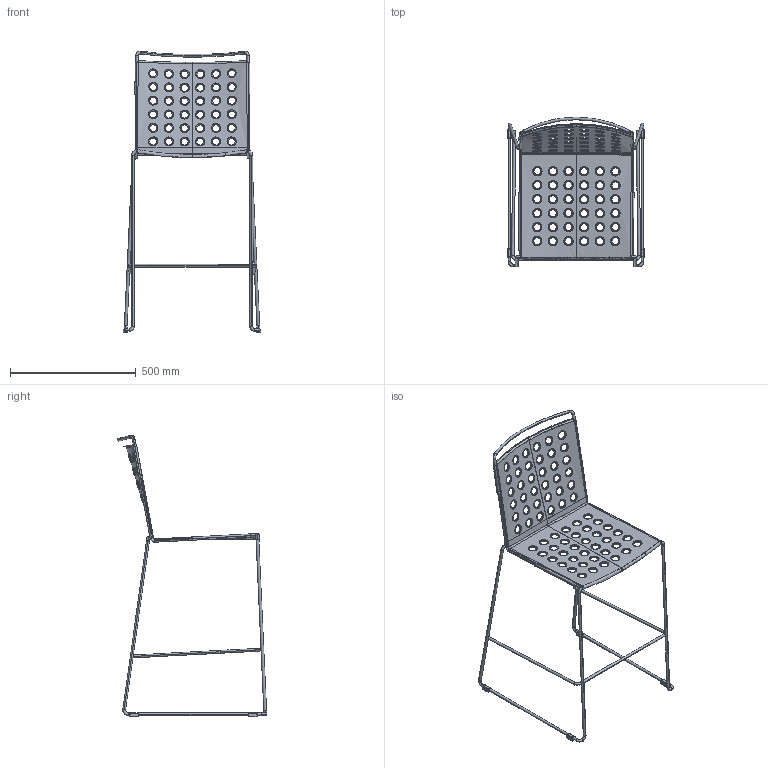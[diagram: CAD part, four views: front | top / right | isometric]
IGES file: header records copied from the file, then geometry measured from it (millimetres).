
Start section: 3D InterOp IGES (v. 2017 1.0.2), Spatial Corp. Copyright (c) 1999-2016.
Global section: file name: Sgabello Alto Busy.igs; native system: Spatial Corp.; preprocessor: 3D InterOp GENERIC/IGES 3.0; author: Noname; organization: Noname; date: 20180712.162311; units: millimetre
Bounding box: 546.32 x 593.65 x 1118.5 mm (x, y, z)
Surface area: 1008489.5 mm2 (no closed solid volume)
Topology: 0 solids, 0 shells, 4418 faces, 27999 edges, 27915 vertices
Faces by surface type: extrusion 2618, revolution 1612, bspline 186, offset 2
